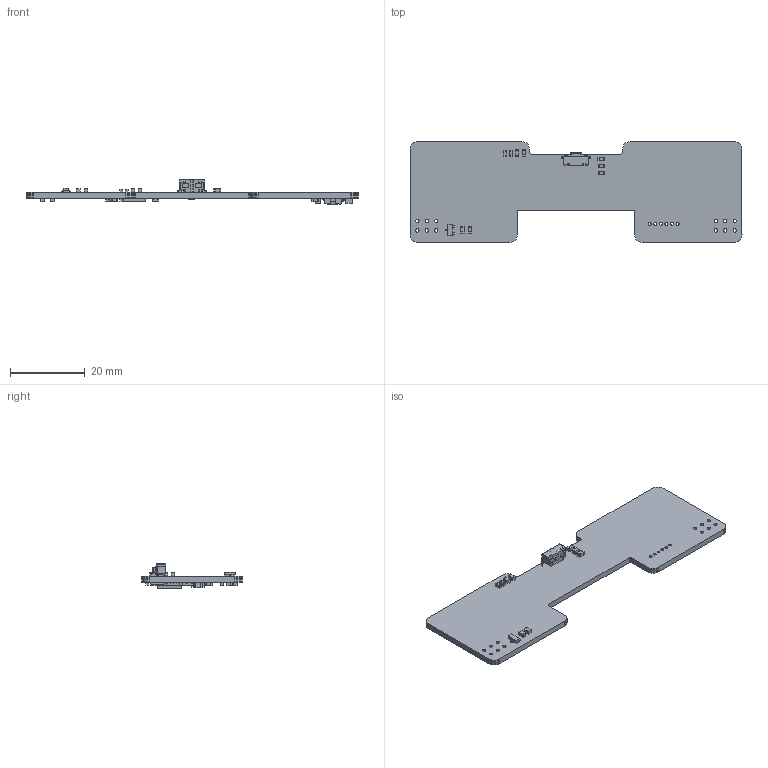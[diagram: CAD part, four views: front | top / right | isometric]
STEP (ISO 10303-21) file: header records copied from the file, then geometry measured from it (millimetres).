
FILE_DESCRIPTION(('Open CASCADE Model'),'2;1');
FILE_NAME('Open CASCADE Shape Model','2019-01-24T16:30:12',('Author'),( 'Open CASCADE'),'Open CASCADE STEP processor 6.5','Open CASCADE 6.5' ,'Unknown');
FILE_SCHEMA(('AUTOMOTIVE_DESIGN { 1 0 10303 214 1 1 1 1 }'));
Length unit declared in the file: millimetre
Products named in the file (61): PCB; Board; R40; 915942432; Extruded; 915939872; R39; U3; SW3DPS-SOT-223-DEFAULT; F2; 80287424; 80287680; C25; 80287808; 80287936; X1; 901984912; U1; User_Library-QFN48; R12; 901985040; 901985296; L3; L2; L1; C27; C26; C13; User_Library-Chip_Capacitor_0603; C12; C11; C10; C9; C8; C7; C6; C5; C4; C3; LED1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
Assembly tree (116 placements, depth 4):
  PCB
    Board
    R40
      915942432  x2
        Extruded
      915939872
        Extruded
    R39
      915942432  x2
        Extruded
      915939872
        Extruded
    U3
      SW3DPS-SOT-223-DEFAULT
    F2
      80287424  x2
        Extruded
      80287680
        Extruded
    C25
      80287808  x2
        Extruded
      80287936
        Extruded
    X1
      901984912
        Extruded
    U1
      User_Library-QFN48
    R12
      901985040  x2
        Extruded
      901985296
        Extruded
    L3
      901985040  x2
        Extruded
      901985296
        Extruded
    L2
      915942432  x2
        Extruded
      915939872
        Extruded
    L1
      915942432  x2
        Extruded
      915939872
        Extruded
    C27
      80287808  x2
        Extruded
      80287936
        Extruded
    C26
      80287808  x2
        Extruded
      80287936
        Extruded
    C13
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Bounding box: 89.02 x 27.02 x 6.69 mm (x, y, z)
Volume: 3423.5 mm3; surface area: 5305.9 mm2
Topology: 74 solids, 75 shells, 1958 faces, 4835 edges, 2972 vertices
Faces by surface type: plane 1284, cylinder 426, sphere 124, bspline 124
Full cylindrical faces by diameter (mm): 0.8 x6, 0.9 x12
Entity records: 102500 total; most frequent: CARTESIAN_POINT 30624, DIRECTION 11185, LINE 7581, VECTOR 7581, ORIENTED_EDGE 6766, PCURVE 6766, DEFINITIONAL_REPRESENTATION 6766, EDGE_CURVE 3383
